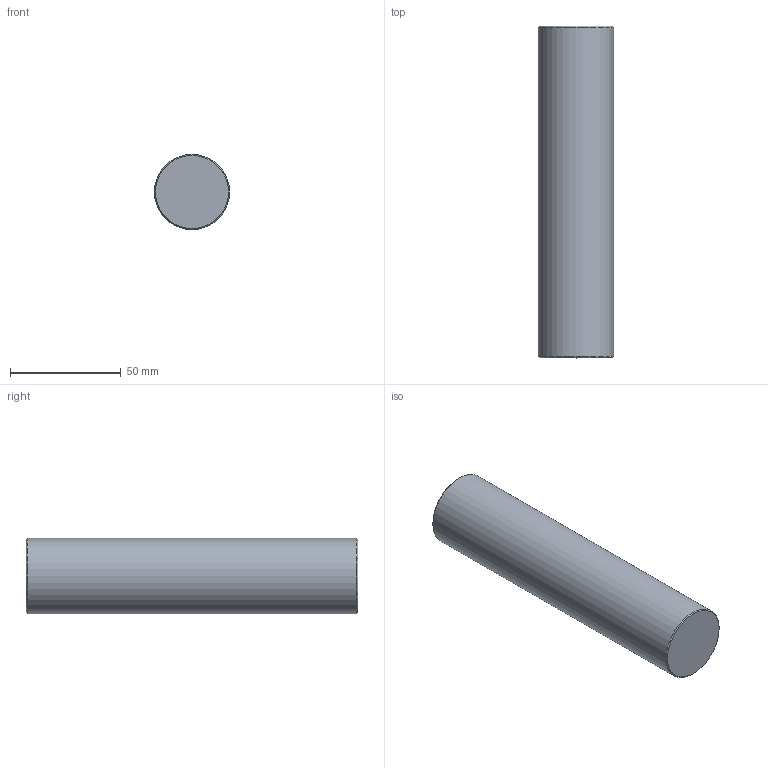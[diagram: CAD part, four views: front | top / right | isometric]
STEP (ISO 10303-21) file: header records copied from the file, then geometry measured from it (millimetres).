
FILE_DESCRIPTION(/* description */ (''),/* implementation_level */ '2;1');
FILE_NAME(/* name */ 'BM02-34D-150L.step',/* time_stamp */ '2023-10-24T13:57:04+09:00',/* author */ (''),/* organization */ (''),/* preprocessor_version */ 'ST-DEVELOPER v20',/* originating_system */ 'Autodesk Translation Framework v12.14.0.127',/* authorisation */ '');
FILE_SCHEMA (('AUTOMOTIVE_DESIGN { 1 0 10303 214 3 1 1 }'));
Length unit declared in the file: millimetre
Products named in the file (1): BM02-34D-150L
Bounding box: 34 x 150 x 34 mm (x, y, z)
Volume: 135256.5 mm3; surface area: 18186 mm2
Topology: 1 solids, 1 shells, 7 faces, 12 edges, 7 vertices
Faces by surface type: cone 3, cylinder 2, plane 2
Full cylindrical faces by diameter (mm): 8.526 x1, 34 x1
Entity records: 203 total; most frequent: DIRECTION 33, CARTESIAN_POINT 26, ORIENTED_EDGE 22, AXIS2_PLACEMENT_3D 14, EDGE_CURVE 11, EDGE_LOOP 8, FACE_OUTER_BOUND 7, VERTEX_POINT 7
